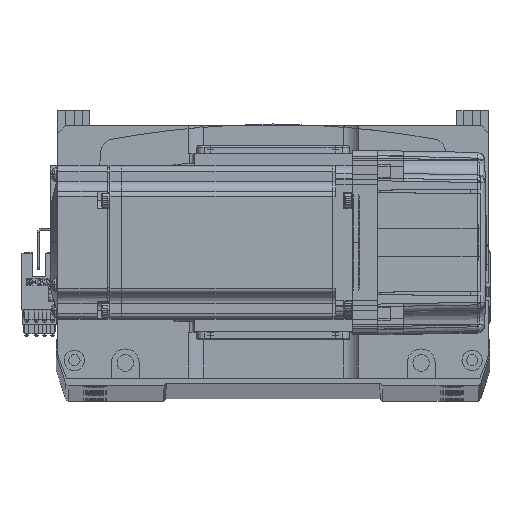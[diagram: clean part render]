
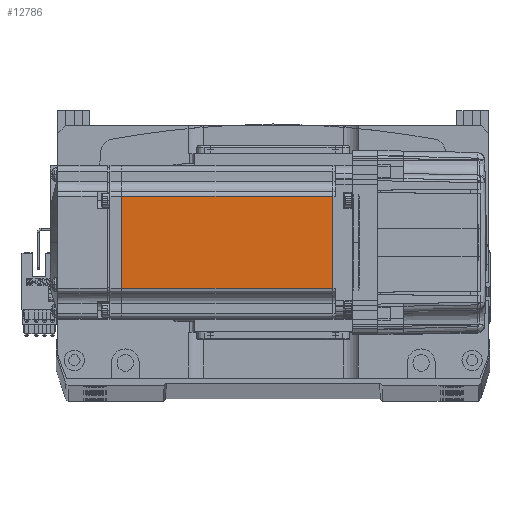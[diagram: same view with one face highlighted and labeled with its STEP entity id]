
A CAD part, top view. The second image highlights one B-rep face of the part: STEP entity #12786.
In plain terms, the highlighted planar face has unit normal (0, 0, 1).
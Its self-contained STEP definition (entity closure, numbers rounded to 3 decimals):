
#1801 = DIRECTION ( 'NONE',  ( -1., 0., 0. ) ) ;
#4207 = DIRECTION ( 'NONE',  ( 0., -1., 0. ) ) ;
#8744 = ORIENTED_EDGE ( 'NONE', *, *, #53350, .F. ) ;
#10824 = VERTEX_POINT ( 'NONE', #48710 ) ;
#12786 = ADVANCED_FACE ( 'NONE', ( #58778 ), #41928, .T. ) ;
#14254 = DIRECTION ( 'NONE',  ( 1., 0., 0. ) ) ;
#14495 = DIRECTION ( 'NONE',  ( 0., 0., 1. ) ) ;
#16509 = CARTESIAN_POINT ( 'NONE',  ( -7.75, 18., 30. ) ) ;
#19261 = EDGE_LOOP ( 'NONE', ( #36032, #23865, #64158, #8744 ) ) ;
#22604 = LINE ( 'NONE', #28212, #47071 ) ;
#23865 = ORIENTED_EDGE ( 'NONE', *, *, #37055, .T. ) ;
#25281 = VECTOR ( 'NONE', #4207, 1000. ) ;
#28212 = CARTESIAN_POINT ( 'NONE',  ( -6.5, -18., 30. ) ) ;
#29947 = EDGE_CURVE ( 'NONE', #38780, #70911, #48853, .T. ) ;
#36032 = ORIENTED_EDGE ( 'NONE', *, *, #29947, .F. ) ;
#37055 = EDGE_CURVE ( 'NONE', #38780, #57037, #56261, .T. ) ;
#38780 = VERTEX_POINT ( 'NONE', #16509 ) ;
#38931 = LINE ( 'NONE', #50155, #45885 ) ;
#41928 = PLANE ( 'NONE',  #47824 ) ;
#45276 = DIRECTION ( 'NONE',  ( -1., 0., 0. ) ) ;
#45885 = VECTOR ( 'NONE', #67285, 1000. ) ;
#47071 = VECTOR ( 'NONE', #45276, 1000. ) ;
#47824 = AXIS2_PLACEMENT_3D ( 'NONE', #58743, #14495, #14254 ) ;
#48710 = CARTESIAN_POINT ( 'NONE',  ( -90.45, -18., 30. ) ) ;
#48853 = LINE ( 'NONE', #49074, #25281 ) ;
#49074 = CARTESIAN_POINT ( 'NONE',  ( -7.75, 0., 30. ) ) ;
#50155 = CARTESIAN_POINT ( 'NONE',  ( -90.45, 0., 30. ) ) ;
#51809 = CARTESIAN_POINT ( 'NONE',  ( -6.5, 18., 30. ) ) ;
#53350 = EDGE_CURVE ( 'NONE', #70911, #10824, #22604, .T. ) ;
#53640 = VECTOR ( 'NONE', #1801, 1000. ) ;
#56261 = LINE ( 'NONE', #51809, #53640 ) ;
#57037 = VERTEX_POINT ( 'NONE', #57993 ) ;
#57993 = CARTESIAN_POINT ( 'NONE',  ( -90.45, 18., 30. ) ) ;
#58743 = CARTESIAN_POINT ( 'NONE',  ( -6.5, -25., 30. ) ) ;
#58778 = FACE_OUTER_BOUND ( 'NONE', #19261, .T. ) ;
#63700 = EDGE_CURVE ( 'NONE', #57037, #10824, #38931, .T. ) ;
#64158 = ORIENTED_EDGE ( 'NONE', *, *, #63700, .T. ) ;
#66981 = CARTESIAN_POINT ( 'NONE',  ( -7.75, -18., 30. ) ) ;
#67285 = DIRECTION ( 'NONE',  ( 0., -1., 0. ) ) ;
#70911 = VERTEX_POINT ( 'NONE', #66981 ) ;
